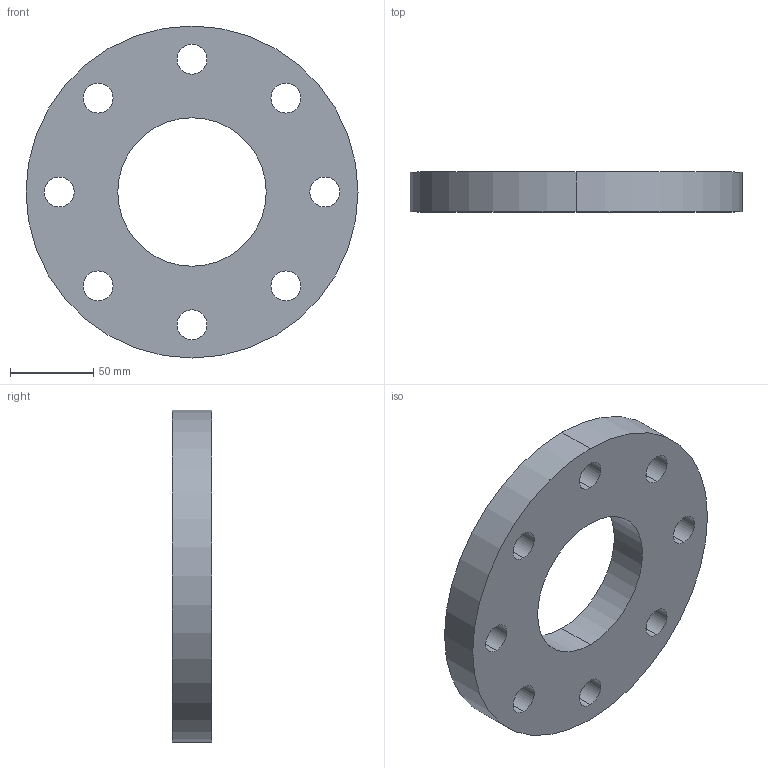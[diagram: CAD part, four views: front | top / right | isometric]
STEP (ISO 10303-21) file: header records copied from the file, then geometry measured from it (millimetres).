
FILE_DESCRIPTION (( 'STEP AP203' ), '1' );
FILE_NAME ('3D_R182-PN40_DN88.9_176230190.STEP', '2024-07-05T10:27:51', ( '' ), ( '' ), 'SwSTEP 2.0', 'SolidWorks 2024', '' );
FILE_SCHEMA (( 'CONFIG_CONTROL_DESIGN' ));
Length unit declared in the file: millimetre
Products named in the file (1): 3D_R182-PN40_DN88.9_176230190
Bounding box: 200 x 24 x 200 mm (x, y, z)
Volume: 554471.8 mm3; surface area: 78883.6 mm2
Topology: 1 solids, 1 shells, 22 faces, 60 edges, 40 vertices
Faces by surface type: cylinder 20, plane 2
Entity records: 837 total; most frequent: DIRECTION 146, CARTESIAN_POINT 123, ORIENTED_EDGE 120, AXIS2_PLACEMENT_3D 63, EDGE_CURVE 60, CIRCLE 40, VERTEX_POINT 40, EDGE_LOOP 40
